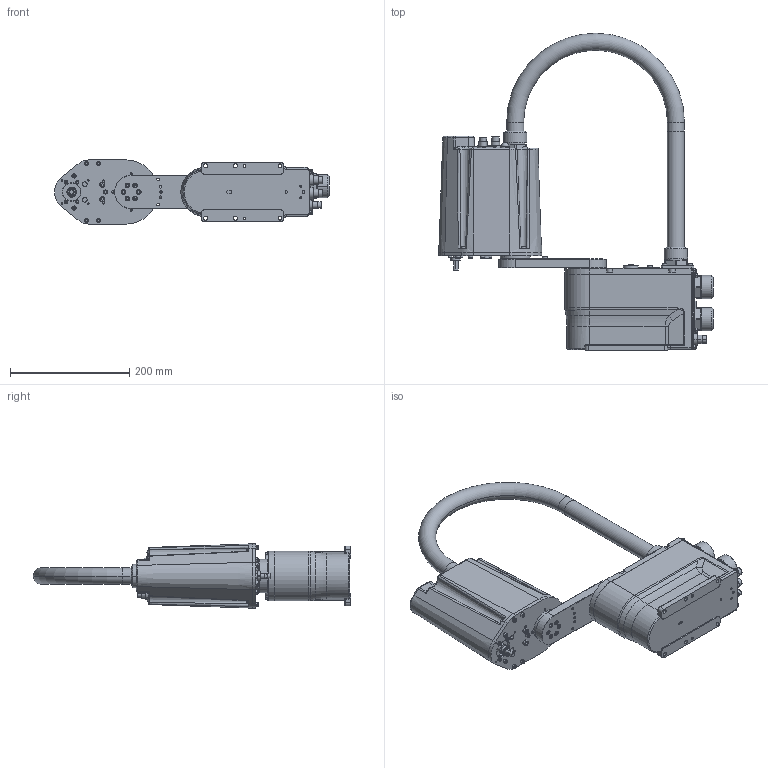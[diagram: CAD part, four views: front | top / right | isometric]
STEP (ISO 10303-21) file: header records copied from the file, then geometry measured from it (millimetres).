
FILE_DESCRIPTION((''),'2;1');
FILE_NAME('G1-221S_ASM','2009-08-18T',('0179539'),(''),'PRO/ENGINEER BY PARAMETRIC TECHNOLOGY CORPORATION, 2006510','PRO/ENGINEER BY PARAMETRIC TECHNOLOGY CORPORATION, 2006510','');
FILE_SCHEMA(('AUTOMOTIVE_DESIGN_CC2 { 1 2 10303 214 -1 1 5 2 }'));
Length unit declared in the file: millimetre
Products named in the file (6): BASE_S; J1_125; J2_125; SHAFT_125; CABLE_125; G1-221S_ASM
Assembly tree (5 placements, depth 2):
  G1-221S_ASM
    BASE_S
    J1_125
    J2_125
    SHAFT_125
    CABLE_125
Bounding box: 461.68 x 533.25 x 108 mm (x, y, z)
Volume: 1596230.4 mm3; surface area: 679497.8 mm2
Topology: 5 solids, 10 shells, 2934 faces, 6902 edges, 4339 vertices
Faces by surface type: plane 1161, cylinder 1110, cone 295, torus 214, bspline 138, sphere 16
Entity records: 122228 total; most frequent: CARTESIAN_POINT 32516, DIRECTION 14987, ORIENTED_EDGE 13736, EDGE_CURVE 6868, AXIS2_PLACEMENT_3D 5728, VERTEX_POINT 4339, VECTOR 3531, LINE 3531
